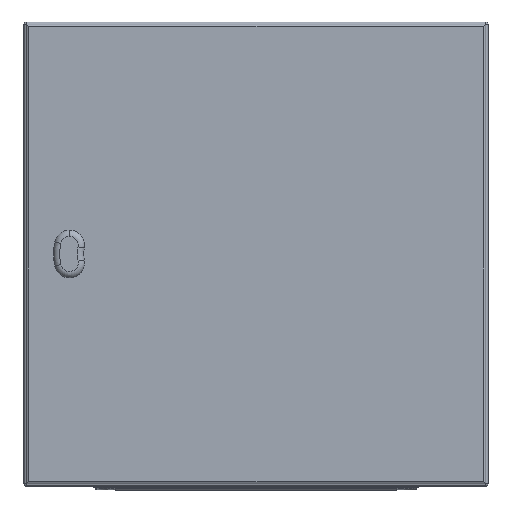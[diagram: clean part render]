
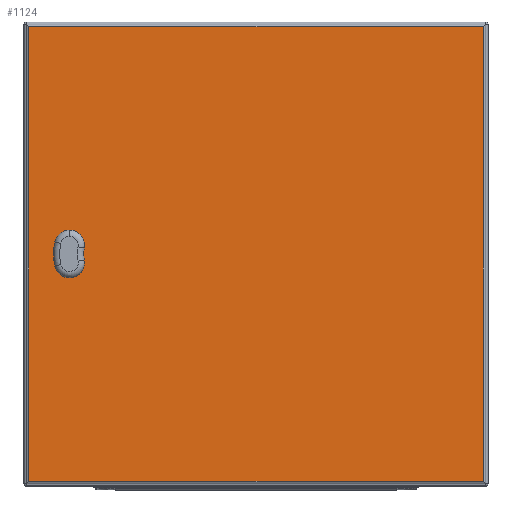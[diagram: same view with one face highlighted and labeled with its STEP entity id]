
A CAD part, top view. The second image highlights one B-rep face of the part: STEP entity #1124.
In plain terms, the highlighted planar face has unit normal (0, 0, 1) as drawn and (0, 0, -1) by its records, which use the part's own axes.
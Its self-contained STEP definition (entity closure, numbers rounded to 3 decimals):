
#45 = LINE ( 'NONE', #19936, #9167 ) ;
#401 = LINE ( 'NONE', #16753, #7804 ) ;
#1124 = ADVANCED_FACE ( 'NONE', ( #22917, #16089 ), #12212, .T. ) ;
#1685 = DIRECTION ( 'NONE',  ( 1., 0., 0. ) ) ;
#1816 = CARTESIAN_POINT ( 'NONE',  ( 245., 245., 0. ) ) ;
#2490 = LINE ( 'NONE', #20620, #18712 ) ;
#2555 = AXIS2_PLACEMENT_3D ( 'NONE', #10235, #6353, #15754 ) ;
#2623 = VERTEX_POINT ( 'NONE', #1816 ) ;
#2719 = ORIENTED_EDGE ( 'NONE', *, *, #12413, .F. ) ;
#2955 = EDGE_CURVE ( 'NONE', #11651, #9382, #3215, .T. ) ;
#3123 = ORIENTED_EDGE ( 'NONE', *, *, #6387, .F. ) ;
#3215 = LINE ( 'NONE', #20640, #11437 ) ;
#3248 = ORIENTED_EDGE ( 'NONE', *, *, #15125, .F. ) ;
#3279 = DIRECTION ( 'NONE',  ( 0., 0., -1. ) ) ;
#3503 = LINE ( 'NONE', #14432, #6392 ) ;
#4341 = CARTESIAN_POINT ( 'NONE',  ( 190.95, -5.056, 0. ) ) ;
#4503 = DIRECTION ( 'NONE',  ( -1., 0., 0. ) ) ;
#4653 = CARTESIAN_POINT ( 'NONE',  ( 211.05, -5.056, 0. ) ) ;
#4789 = CARTESIAN_POINT ( 'NONE',  ( 247.5, 245., 0. ) ) ;
#5173 = EDGE_CURVE ( 'NONE', #13493, #5820, #3503, .T. ) ;
#5320 = ORIENTED_EDGE ( 'NONE', *, *, #21960, .T. ) ;
#5394 = ORIENTED_EDGE ( 'NONE', *, *, #5173, .F. ) ;
#5405 = EDGE_CURVE ( 'NONE', #19029, #2623, #11725, .T. ) ;
#5596 = CIRCLE ( 'NONE', #14236, 11.25 ) ;
#5668 = EDGE_LOOP ( 'NONE', ( #2719, #18361, #21312, #11969, #3123, #5394, #3248, #21787 ) ) ;
#5688 = CIRCLE ( 'NONE', #8696, 11.25 ) ;
#5689 = CARTESIAN_POINT ( 'NONE',  ( 195.944, -10.05, 0. ) ) ;
#5820 = VERTEX_POINT ( 'NONE', #8519 ) ;
#5842 = ORIENTED_EDGE ( 'NONE', *, *, #11269, .T. ) ;
#5970 = EDGE_LOOP ( 'NONE', ( #5842, #9379, #5320, #12259 ) ) ;
#6064 = CARTESIAN_POINT ( 'NONE',  ( 190.95, 5.056, 0. ) ) ;
#6153 = DIRECTION ( 'NONE',  ( 0., 0., -1. ) ) ;
#6322 = CARTESIAN_POINT ( 'NONE',  ( -245., 245., 0. ) ) ;
#6353 = DIRECTION ( 'NONE',  ( 0., 0., -1. ) ) ;
#6387 = EDGE_CURVE ( 'NONE', #5820, #14123, #13819, .T. ) ;
#6392 = VECTOR ( 'NONE', #12668, 1000. ) ;
#6455 = CARTESIAN_POINT ( 'NONE',  ( 206.056, -10.05, 0. ) ) ;
#6535 = LINE ( 'NONE', #4653, #10113 ) ;
#7031 = VECTOR ( 'NONE', #17128, 1000. ) ;
#7153 = CARTESIAN_POINT ( 'NONE',  ( 247.5, 247.5, 0. ) ) ;
#7154 = EDGE_CURVE ( 'NONE', #14123, #18872, #6535, .T. ) ;
#7804 = VECTOR ( 'NONE', #9129, 1000. ) ;
#8474 = CARTESIAN_POINT ( 'NONE',  ( -245., -245., 0. ) ) ;
#8519 = CARTESIAN_POINT ( 'NONE',  ( 206.056, 10.05, 0. ) ) ;
#8696 = AXIS2_PLACEMENT_3D ( 'NONE', #15925, #13924, #1685 ) ;
#9082 = CARTESIAN_POINT ( 'NONE',  ( 190.95, -5.056, 0. ) ) ;
#9129 = DIRECTION ( 'NONE',  ( -1., 0., 0. ) ) ;
#9167 = VECTOR ( 'NONE', #20293, 1000. ) ;
#9314 = DIRECTION ( 'NONE',  ( 0., 1., 0. ) ) ;
#9379 = ORIENTED_EDGE ( 'NONE', *, *, #5405, .T. ) ;
#9382 = VERTEX_POINT ( 'NONE', #8474 ) ;
#10113 = VECTOR ( 'NONE', #15467, 1000. ) ;
#10149 = CARTESIAN_POINT ( 'NONE',  ( 201., 0., 0. ) ) ;
#10217 = VERTEX_POINT ( 'NONE', #6455 ) ;
#10235 = CARTESIAN_POINT ( 'NONE',  ( 201., 0., 0. ) ) ;
#10454 = DIRECTION ( 'NONE',  ( -1., 0., 0. ) ) ;
#10768 = EDGE_CURVE ( 'NONE', #10217, #21028, #401, .T. ) ;
#11269 = EDGE_CURVE ( 'NONE', #9382, #19029, #2490, .T. ) ;
#11295 = CARTESIAN_POINT ( 'NONE',  ( 245., -245., 0. ) ) ;
#11437 = VECTOR ( 'NONE', #13908, 1000. ) ;
#11568 = EDGE_CURVE ( 'NONE', #18872, #10217, #5596, .T. ) ;
#11651 = VERTEX_POINT ( 'NONE', #11295 ) ;
#11725 = LINE ( 'NONE', #4789, #7031 ) ;
#11749 = DIRECTION ( 'NONE',  ( 0., 0., -1. ) ) ;
#11829 = VERTEX_POINT ( 'NONE', #6064 ) ;
#11969 = ORIENTED_EDGE ( 'NONE', *, *, #7154, .F. ) ;
#12001 = CIRCLE ( 'NONE', #18762, 11.25 ) ;
#12212 = PLANE ( 'NONE',  #16305 ) ;
#12259 = ORIENTED_EDGE ( 'NONE', *, *, #2955, .T. ) ;
#12413 = EDGE_CURVE ( 'NONE', #21028, #23047, #12001, .T. ) ;
#12668 = DIRECTION ( 'NONE',  ( 1., 0., 0. ) ) ;
#13493 = VERTEX_POINT ( 'NONE', #21958 ) ;
#13625 = CARTESIAN_POINT ( 'NONE',  ( 211.05, 5.056, 0. ) ) ;
#13819 = CIRCLE ( 'NONE', #2555, 11.25 ) ;
#13908 = DIRECTION ( 'NONE',  ( -1., 0., 0. ) ) ;
#13924 = DIRECTION ( 'NONE',  ( 0., 0., -1. ) ) ;
#14123 = VERTEX_POINT ( 'NONE', #13625 ) ;
#14236 = AXIS2_PLACEMENT_3D ( 'NONE', #20249, #11749, #16696 ) ;
#14432 = CARTESIAN_POINT ( 'NONE',  ( 206.056, 10.05, 0. ) ) ;
#15125 = EDGE_CURVE ( 'NONE', #11829, #13493, #5688, .T. ) ;
#15467 = DIRECTION ( 'NONE',  ( 0., -1., 0. ) ) ;
#15697 = EDGE_CURVE ( 'NONE', #23047, #11829, #18127, .T. ) ;
#15754 = DIRECTION ( 'NONE',  ( 1., 0., 0. ) ) ;
#15925 = CARTESIAN_POINT ( 'NONE',  ( 201., 0., 0. ) ) ;
#16089 = FACE_OUTER_BOUND ( 'NONE', #5970, .T. ) ;
#16305 = AXIS2_PLACEMENT_3D ( 'NONE', #7153, #3279, #10454 ) ;
#16696 = DIRECTION ( 'NONE',  ( -1., 0., 0. ) ) ;
#16753 = CARTESIAN_POINT ( 'NONE',  ( 206.056, -10.05, 0. ) ) ;
#17128 = DIRECTION ( 'NONE',  ( 1., 0., 0. ) ) ;
#18127 = LINE ( 'NONE', #9082, #18981 ) ;
#18361 = ORIENTED_EDGE ( 'NONE', *, *, #10768, .F. ) ;
#18712 = VECTOR ( 'NONE', #23177, 1000. ) ;
#18762 = AXIS2_PLACEMENT_3D ( 'NONE', #10149, #6153, #4503 ) ;
#18872 = VERTEX_POINT ( 'NONE', #19510 ) ;
#18981 = VECTOR ( 'NONE', #9314, 1000. ) ;
#19029 = VERTEX_POINT ( 'NONE', #6322 ) ;
#19510 = CARTESIAN_POINT ( 'NONE',  ( 211.05, -5.056, 0. ) ) ;
#19936 = CARTESIAN_POINT ( 'NONE',  ( 245., -247.5, 0. ) ) ;
#20249 = CARTESIAN_POINT ( 'NONE',  ( 201., 0., 0. ) ) ;
#20293 = DIRECTION ( 'NONE',  ( 0., -1., 0. ) ) ;
#20620 = CARTESIAN_POINT ( 'NONE',  ( -245., 247.5, 0. ) ) ;
#20640 = CARTESIAN_POINT ( 'NONE',  ( -247.5, -245., 0. ) ) ;
#21028 = VERTEX_POINT ( 'NONE', #5689 ) ;
#21312 = ORIENTED_EDGE ( 'NONE', *, *, #11568, .F. ) ;
#21787 = ORIENTED_EDGE ( 'NONE', *, *, #15697, .F. ) ;
#21958 = CARTESIAN_POINT ( 'NONE',  ( 195.944, 10.05, 0. ) ) ;
#21960 = EDGE_CURVE ( 'NONE', #2623, #11651, #45, .T. ) ;
#22917 = FACE_BOUND ( 'NONE', #5668, .T. ) ;
#23047 = VERTEX_POINT ( 'NONE', #4341 ) ;
#23177 = DIRECTION ( 'NONE',  ( 0., 1., 0. ) ) ;
